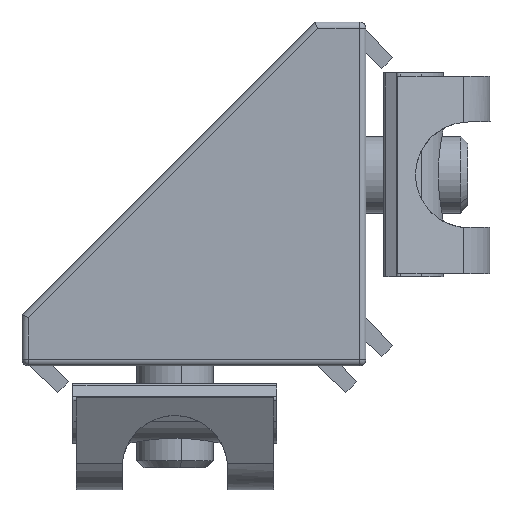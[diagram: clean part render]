
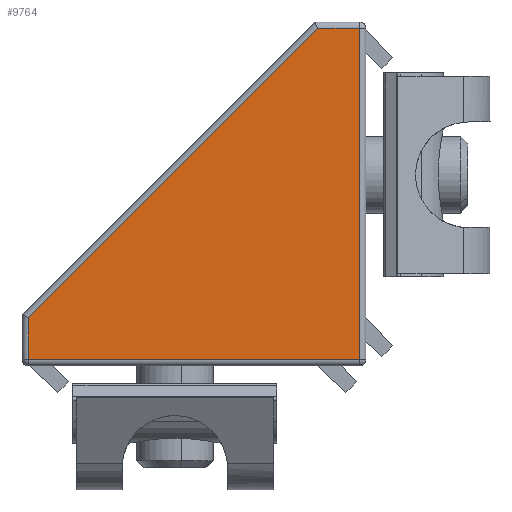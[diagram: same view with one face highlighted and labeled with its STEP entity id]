
A CAD part, left-side view. The second image highlights one B-rep face of the part: STEP entity #9764.
In plain terms, the highlighted planar face has unit normal (-1, 0, 0).
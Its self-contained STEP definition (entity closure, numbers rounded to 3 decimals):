
#284 = EDGE_LOOP ( 'NONE', ( #2634, #5094, #6795, #7144, #1608 ) ) ;
#537 = VECTOR ( 'NONE', #9807, 1000. ) ;
#661 = DIRECTION ( 'NONE',  ( 0., 0.707, -0.707 ) ) ;
#1498 = CARTESIAN_POINT ( 'NONE',  ( -13.346, -12.274, -12.352 ) ) ;
#1608 = ORIENTED_EDGE ( 'NONE', *, *, #8553, .T. ) ;
#1668 = CARTESIAN_POINT ( 'NONE',  ( -13.346, 2.872, 2.294 ) ) ;
#1824 = CARTESIAN_POINT ( 'NONE',  ( -13.346, -12.274, 13.648 ) ) ;
#1931 = VERTEX_POINT ( 'NONE', #3685 ) ;
#1978 = CARTESIAN_POINT ( 'NONE',  ( -13.346, -8.481, 13.648 ) ) ;
#2028 = DIRECTION ( 'NONE',  ( 0., 1., 0. ) ) ;
#2060 = VECTOR ( 'NONE', #9968, 1000. ) ;
#2320 = PLANE ( 'NONE',  #7186 ) ;
#2634 = ORIENTED_EDGE ( 'NONE', *, *, #10156, .T. ) ;
#2735 = LINE ( 'NONE', #13135, #2060 ) ;
#3559 = CARTESIAN_POINT ( 'NONE',  ( -13.346, -11.774, -12.352 ) ) ;
#3685 = CARTESIAN_POINT ( 'NONE',  ( -13.346, 14.226, -9.059 ) ) ;
#4494 = EDGE_CURVE ( 'NONE', #8121, #7105, #9053, .T. ) ;
#5094 = ORIENTED_EDGE ( 'NONE', *, *, #4494, .T. ) ;
#5464 = EDGE_CURVE ( 'NONE', #7105, #9721, #12061, .T. ) ;
#5995 = CARTESIAN_POINT ( 'NONE',  ( -13.346, 14.226, -12.352 ) ) ;
#6112 = CARTESIAN_POINT ( 'NONE',  ( -13.346, -11.774, 13.648 ) ) ;
#6795 = ORIENTED_EDGE ( 'NONE', *, *, #5464, .T. ) ;
#7105 = VERTEX_POINT ( 'NONE', #6112 ) ;
#7144 = ORIENTED_EDGE ( 'NONE', *, *, #13045, .T. ) ;
#7186 = AXIS2_PLACEMENT_3D ( 'NONE', #11455, #11527, #12453 ) ;
#8121 = VERTEX_POINT ( 'NONE', #3559 ) ;
#8553 = EDGE_CURVE ( 'NONE', #1931, #10826, #2735, .T. ) ;
#8967 = VECTOR ( 'NONE', #2028, 1000. ) ;
#9053 = LINE ( 'NONE', #11905, #9634 ) ;
#9241 = VECTOR ( 'NONE', #661, 1000. ) ;
#9634 = VECTOR ( 'NONE', #12703, 1000. ) ;
#9721 = VERTEX_POINT ( 'NONE', #1978 ) ;
#9764 = ADVANCED_FACE ( 'NONE', ( #12327 ), #2320, .F. ) ;
#9807 = DIRECTION ( 'NONE',  ( 0., -1., 0. ) ) ;
#9968 = DIRECTION ( 'NONE',  ( 0., 0., -1. ) ) ;
#10156 = EDGE_CURVE ( 'NONE', #10826, #8121, #11573, .T. ) ;
#10826 = VERTEX_POINT ( 'NONE', #5995 ) ;
#11455 = CARTESIAN_POINT ( 'NONE',  ( -13.346, -12.274, -12.852 ) ) ;
#11527 = DIRECTION ( 'NONE',  ( 1., 0., 0. ) ) ;
#11573 = LINE ( 'NONE', #1498, #537 ) ;
#11889 = LINE ( 'NONE', #1668, #9241 ) ;
#11905 = CARTESIAN_POINT ( 'NONE',  ( -13.346, -11.774, 14.148 ) ) ;
#12061 = LINE ( 'NONE', #1824, #8967 ) ;
#12327 = FACE_OUTER_BOUND ( 'NONE', #284, .T. ) ;
#12453 = DIRECTION ( 'NONE',  ( 0., -1., 0. ) ) ;
#12703 = DIRECTION ( 'NONE',  ( 0., 0., 1. ) ) ;
#13045 = EDGE_CURVE ( 'NONE', #9721, #1931, #11889, .T. ) ;
#13135 = CARTESIAN_POINT ( 'NONE',  ( -13.346, 14.226, -12.852 ) ) ;
